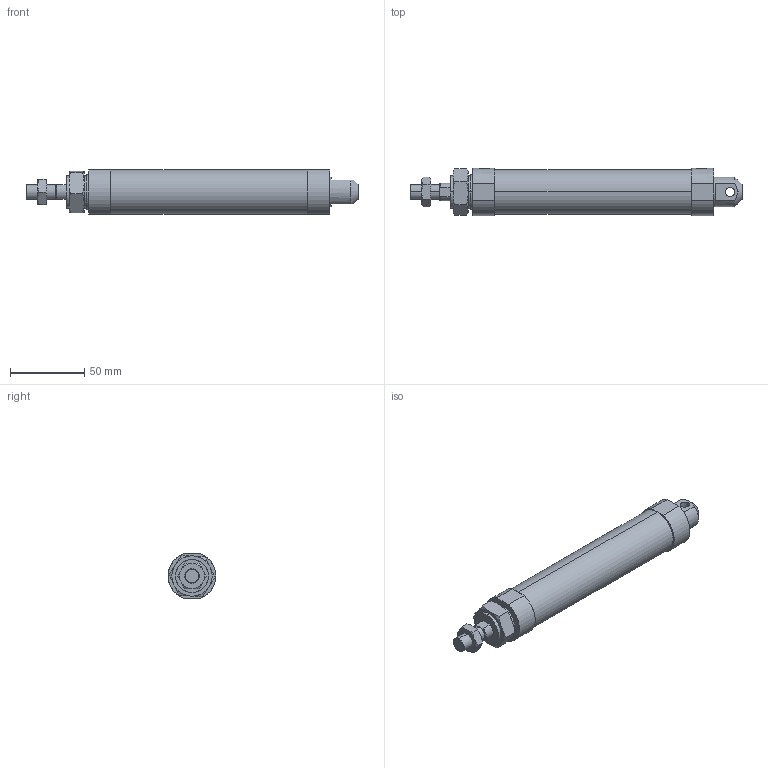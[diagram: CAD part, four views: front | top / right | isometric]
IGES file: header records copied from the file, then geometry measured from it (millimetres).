
Start section: SolidWorks IGES file using analytic representation for surfaces
Global section: file name: C:\Users\Toshiba\Desktop\J#2-25-100-C.IGS; native system: SolidWorks 2014; preprocessor: SolidWorks 2014; author: Toshiba; date: 160308.151456; units: millimetre
Bounding box: 223 x 32 x 30 mm (x, y, z)
Surface area: 24166 mm2 (no closed solid volume)
Topology: 0 solids, 0 shells, 96 faces, 1824 edges, 1824 vertices
Faces by surface type: bspline 64, revolution 32
